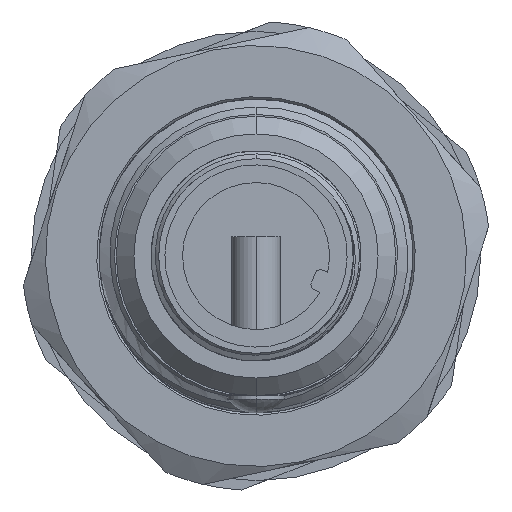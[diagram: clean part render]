
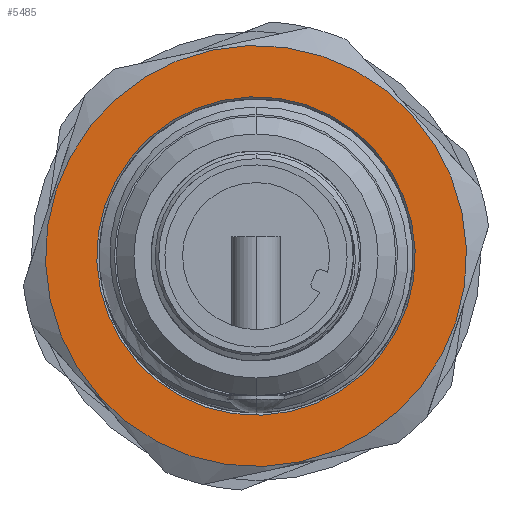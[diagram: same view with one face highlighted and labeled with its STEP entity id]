
A CAD part, front view. The second image highlights one B-rep face of the part: STEP entity #5485.
In plain terms, the highlighted planar face has unit normal (0, -1, 0).
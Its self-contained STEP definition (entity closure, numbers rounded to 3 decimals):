
#168 = VERTEX_POINT ( 'NONE', #3641 ) ;
#280 = ORIENTED_EDGE ( 'NONE', *, *, #5254, .T. ) ;
#415 = CARTESIAN_POINT ( 'NONE',  ( -11.417, -6.075, 54.777 ) ) ;
#449 = EDGE_CURVE ( 'NONE', #9228, #168, #10088, .T. ) ;
#955 = CIRCLE ( 'NONE', #1895, 11.9 ) ;
#1215 = ORIENTED_EDGE ( 'NONE', *, *, #4857, .T. ) ;
#1365 = AXIS2_PLACEMENT_3D ( 'NONE', #4622, #2259, #6964 ) ;
#1895 = AXIS2_PLACEMENT_3D ( 'NONE', #6908, #2490, #3748 ) ;
#2224 = EDGE_LOOP ( 'NONE', ( #1215, #10231 ) ) ;
#2259 = DIRECTION ( 'NONE',  ( 0., 1., 0. ) ) ;
#2490 = DIRECTION ( 'NONE',  ( 0., -1., 0. ) ) ;
#2595 = VERTEX_POINT ( 'NONE', #7333 ) ;
#2733 = EDGE_CURVE ( 'NONE', #2595, #4195, #6081, .T. ) ;
#2796 = FACE_OUTER_BOUND ( 'NONE', #2224, .T. ) ;
#2828 = ORIENTED_EDGE ( 'NONE', *, *, #2733, .T. ) ;
#2852 = DIRECTION ( 'NONE',  ( 0., 1., 0. ) ) ;
#3070 = DIRECTION ( 'NONE',  ( 0., -1., 0. ) ) ;
#3315 = CIRCLE ( 'NONE', #10342, 9. ) ;
#3501 = CARTESIAN_POINT ( 'NONE',  ( -2.856, -6.075, 52. ) ) ;
#3634 = CARTESIAN_POINT ( 'NONE',  ( -2.856, -6.075, 52. ) ) ;
#3641 = CARTESIAN_POINT ( 'NONE',  ( -14.175, -6.075, 55.672 ) ) ;
#3748 = DIRECTION ( 'NONE',  ( -0.951, 0., 0.309 ) ) ;
#4195 = VERTEX_POINT ( 'NONE', #415 ) ;
#4622 = CARTESIAN_POINT ( 'NONE',  ( -2.856, -6.075, 52. ) ) ;
#4857 = EDGE_CURVE ( 'NONE', #168, #9228, #955, .T. ) ;
#5086 = DIRECTION ( 'NONE',  ( 0.951, 0., -0.309 ) ) ;
#5254 = EDGE_CURVE ( 'NONE', #4195, #2595, #3315, .T. ) ;
#5485 = ADVANCED_FACE ( 'NONE', ( #6659, #2796 ), #6216, .F. ) ;
#5875 = AXIS2_PLACEMENT_3D ( 'NONE', #6259, #3070, #8666 ) ;
#6081 = CIRCLE ( 'NONE', #8595, 9. ) ;
#6216 = PLANE ( 'NONE',  #1365 ) ;
#6259 = CARTESIAN_POINT ( 'NONE',  ( -2.856, -6.075, 52. ) ) ;
#6659 = FACE_BOUND ( 'NONE', #7720, .T. ) ;
#6908 = CARTESIAN_POINT ( 'NONE',  ( -2.856, -6.075, 52. ) ) ;
#6964 = DIRECTION ( 'NONE',  ( 0.951, 0., -0.309 ) ) ;
#7333 = CARTESIAN_POINT ( 'NONE',  ( 5.705, -6.075, 49.223 ) ) ;
#7720 = EDGE_LOOP ( 'NONE', ( #280, #2828 ) ) ;
#8450 = DIRECTION ( 'NONE',  ( 0.951, 0., -0.309 ) ) ;
#8595 = AXIS2_PLACEMENT_3D ( 'NONE', #3501, #9185, #5086 ) ;
#8666 = DIRECTION ( 'NONE',  ( -0.951, 0., 0.309 ) ) ;
#9185 = DIRECTION ( 'NONE',  ( 0., 1., 0. ) ) ;
#9228 = VERTEX_POINT ( 'NONE', #9519 ) ;
#9519 = CARTESIAN_POINT ( 'NONE',  ( 8.464, -6.075, 48.328 ) ) ;
#10088 = CIRCLE ( 'NONE', #5875, 11.9 ) ;
#10231 = ORIENTED_EDGE ( 'NONE', *, *, #449, .T. ) ;
#10342 = AXIS2_PLACEMENT_3D ( 'NONE', #3634, #2852, #8450 ) ;
